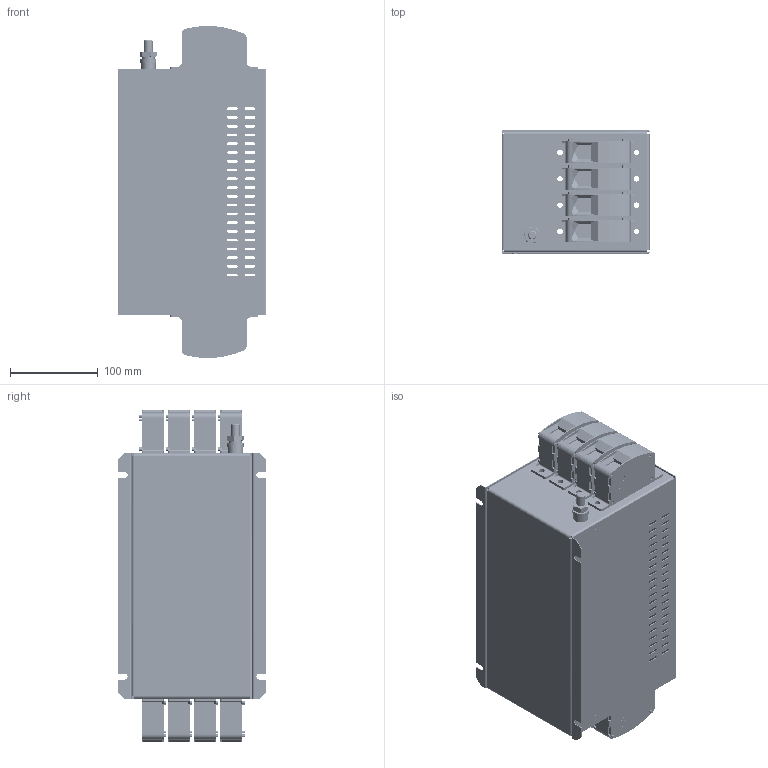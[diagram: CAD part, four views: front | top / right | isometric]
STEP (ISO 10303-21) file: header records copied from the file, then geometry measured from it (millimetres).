
FILE_DESCRIPTION (( 'STEP AP214' ), '1' );
FILE_NAME ('NF-4-230-GTR.STEP', '2026-09-16T06:56:19', ( '' ), ( '' ), 'SwSTEP 2.0', 'SolidWorks 2025', '' );
FILE_SCHEMA (( 'AUTOMOTIVE_DESIGN' ));
Length unit declared in the file: millimetre
Products named in the file (17): NF-4-230-GTR(2); Sealing-plate_1; BS EN ISO 4017 - M10 x 35_1; washer_1; 1000-490_1_1; FH-M4-10 ZI_1; UW_95-POT-F_S-select_1; NF-4-230-GTR; 1000-490 L_1; 1_1; Hex_screw-M10X20; UW_95-POT-F_S-A-select_1; KS B 1324 - No. 2 - 8_1; UW95-Pot-select_1; ANSI B18.22M - 8 N_1; BS 3692 - M10_1; IFI 505 - 43, FHSBMBR_1
Assembly tree (35 placements, depth 4):
  NF-4-230-GTR
    NF-4-230-GTR(2)
      UW_95-POT-F_S-select_1  x8
        Hex_screw-M10X20
        washer_1
        UW95-Pot-select_1
        Sealing-plate_1
        UW_95-POT-F_S-A-select_1
      1000-490_1_1
      1000-490 L_1
      IFI 505 - 43, FHSBMBR_1  x12
      BS 3692 - M10_1
      1_1
      ANSI B18.22M - 8 N_1  x2
      KS B 1324 - No. 2 - 8_1
      BS EN ISO 4017 - M10 x 35_1
      FH-M4-10 ZI_1
Bounding box: 170 x 170 x 378.93 mm (x, y, z)
Volume: 1068476.2 mm3; surface area: 740517.6 mm2
Topology: 61 solids, 67 shells, 10790 faces, 29455 edges, 19492 vertices
Faces by surface type: plane 7368, cylinder 2573, bspline 560, cone 257, torus 32
Entity records: 72906 total; most frequent: CARTESIAN_POINT 16760, ORIENTED_EDGE 11996, DIRECTION 10908, EDGE_CURVE 5998, LINE 4290, VECTOR 4290, VERTEX_POINT 3935, AXIS2_PLACEMENT_3D 3309
